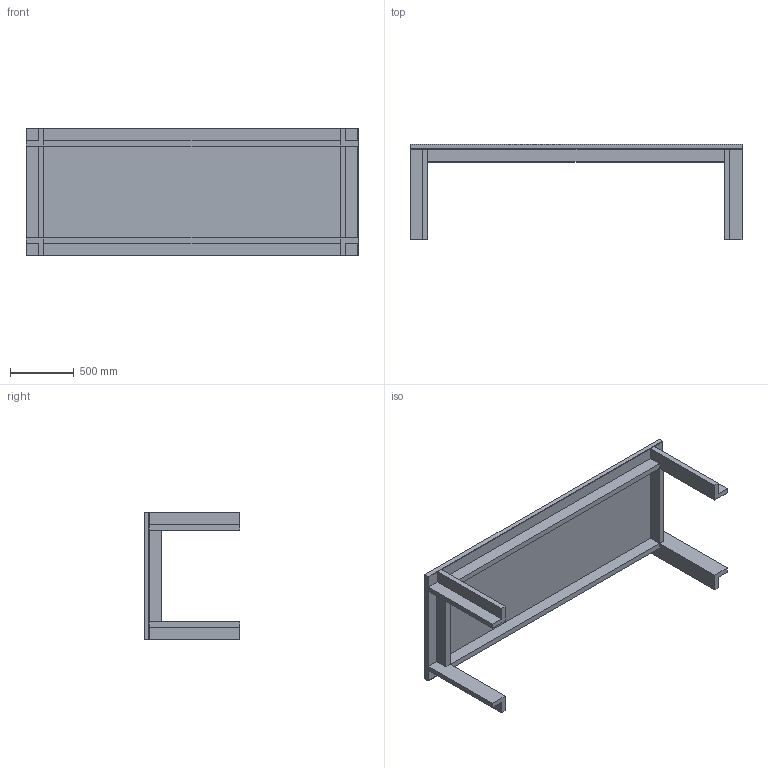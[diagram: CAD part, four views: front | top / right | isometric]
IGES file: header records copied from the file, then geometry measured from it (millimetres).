
Start section: SolidWorks IGES file using analytic representation for surfaces
Global section: file name: C:\Users\David.BDLE\Desktop\Stuff\Vocast upload 2d-3d files\Tables\De La Espada_501 Table One\3D IGS\501L Table One_3D IGS.IGS; native system: SolidWorks 2016; preprocessor: SolidWorks 2016; author: David; date: 210125.094228; units: millimetre
Bounding box: 2600 x 750 x 1000 mm (x, y, z)
Surface area: 8260049.5 mm2 (no closed solid volume)
Topology: 0 solids, 0 shells, 71 faces, 352 edges, 352 vertices
Faces by surface type: bspline 71
